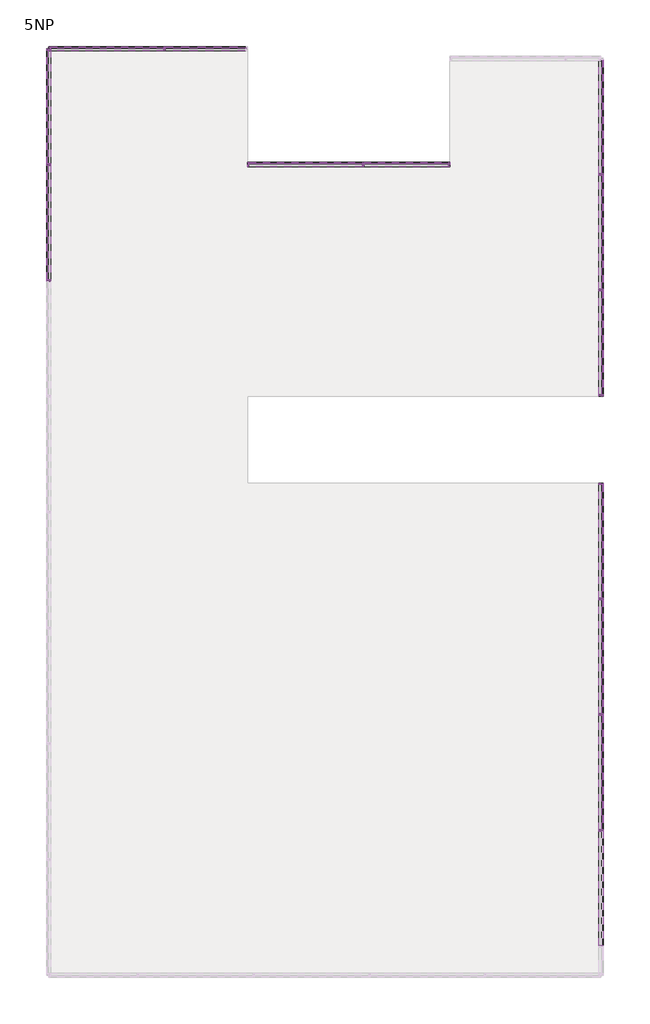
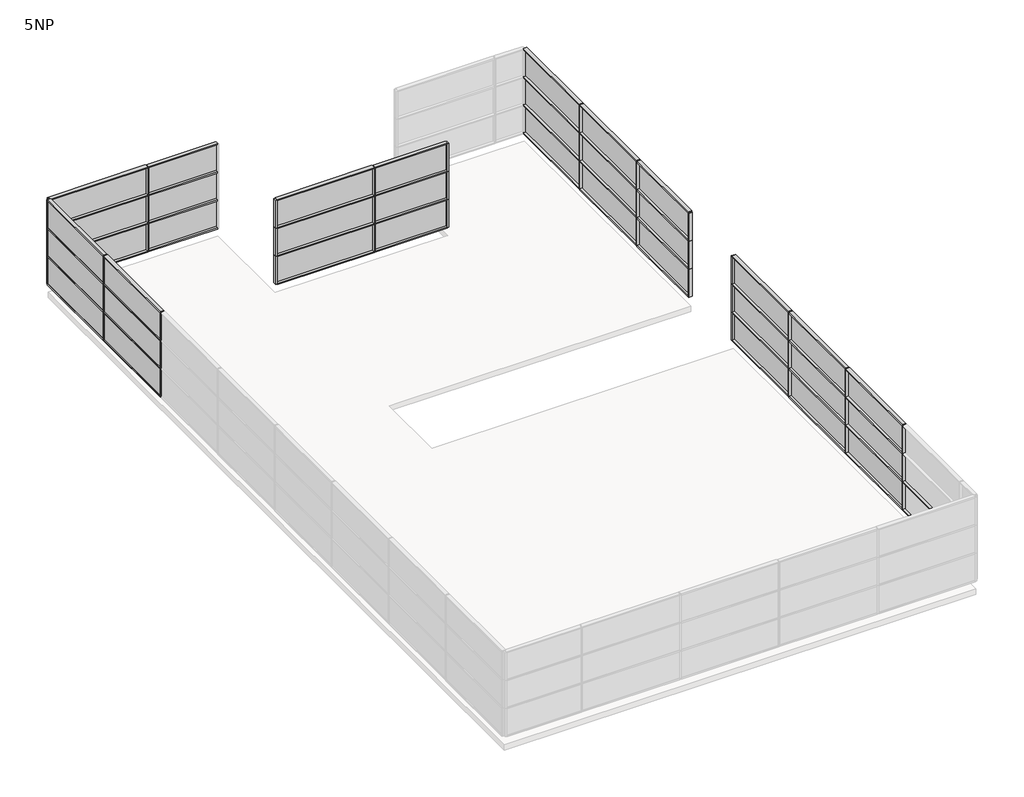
# One storey, part 2 of 3: 95 members, 36 plates.
"""IFC4 building model written with IfcOpenShell, lengths in millimetres."""

from ifc_helpers import new_model, si_unit, origin, place, context, project, spatial, transform, mapped, element, save
from components import rectangular_mullion_50_x_150mm_d99dc9be, rectangular_mullion_50_x_150mm_6588f46c, rectangular_mullion_50_x_150mm_3fe1b35e, rectangular_mullion_50_x_150mm_a037c29c, rectangular_mullion_50_x_150mm_c2546fd4, rectangular_mullion_50_x_150mm_8b4cb4b7, rectangular_mullion_50_x_150mm_185cfd49, system_panel_glazed_8e9402eb, system_panel_glazed_89ac83a7, system_panel_glazed_5566c609, system_panel_glazed_e890f31e, system_panel_glazed_e3e91f99

model = new_model("IFC4")

# Units and contexts
model_context = context("Model", 3, world=origin())
ifc_project = project(units=[si_unit("LENGTHUNIT", "METRE", prefix="MILLI")], contexts=[model_context])

# Site, building, storey
site = spatial("IfcSite", under=ifc_project)
building = spatial("IfcBuilding", under=site)
storey = spatial("IfcBuildingStorey", under=building, Name="5NP", Elevation=20000.0)

# Members
placement = place(None, origin())
rectangular_mullion_50_x_150mm_shape = rectangular_mullion_50_x_150mm_d99dc9be(model_context)
element("IfcMember", 1, ObjectType="Rectangular Mullion : 50 x 150mm", at=placement, inside=storey, context=model_context, shape_type="MappedRepresentation", body=[
    mapped(rectangular_mullion_50_x_150mm_shape, transform((13503.2660975, 39.3555415, 24000.0), x_axis=(0.0, -1.0, 0.0), y_axis=(1.0, 0.0, 0.0), z_axis=(0.0, 0.0, 1.0))),
])
element("IfcMember", 2, ObjectType="Rectangular Mullion : 50 x 150mm", at=placement, inside=storey, context=model_context, shape_type="MappedRepresentation", body=[
    mapped(rectangular_mullion_50_x_150mm_shape, transform((13503.2660975, 39.3555415, 22800.0), x_axis=(0.0, -1.0, 0.0), y_axis=(1.0, 0.0, 0.0), z_axis=(0.0, 0.0, 1.0))),
])
element("IfcMember", 3, ObjectType="Rectangular Mullion : 50 x 150mm", at=placement, inside=storey, context=model_context, shape_type="MappedRepresentation", body=[
    mapped(rectangular_mullion_50_x_150mm_shape, transform((13503.2660975, 39.3555415, 21600.0), x_axis=(0.0, -1.0, 0.0), y_axis=(1.0, 0.0, 0.0), z_axis=(0.0, 0.0, 1.0))),
])
element("IfcMember", 4, ObjectType="Rectangular Mullion : 50 x 150mm", at=placement, inside=storey, context=model_context, shape_type="MappedRepresentation", body=[
    mapped(rectangular_mullion_50_x_150mm_shape, transform((13503.2660975, 4039.3555415, 24000.0), x_axis=(0.0, -1.0, 0.0), y_axis=(1.0, 0.0, 0.0), z_axis=(0.0, 0.0, 1.0))),
])
element("IfcMember", 5, ObjectType="Rectangular Mullion : 50 x 150mm", at=placement, inside=storey, context=model_context, shape_type="MappedRepresentation", body=[
    mapped(rectangular_mullion_50_x_150mm_shape, transform((13503.2660975, 4039.3555415, 22800.0), x_axis=(0.0, -1.0, 0.0), y_axis=(1.0, 0.0, 0.0), z_axis=(0.0, 0.0, 1.0))),
])
element("IfcMember", 6, ObjectType="Rectangular Mullion : 50 x 150mm", at=placement, inside=storey, context=model_context, shape_type="MappedRepresentation", body=[
    mapped(rectangular_mullion_50_x_150mm_shape, transform((13503.2660975, 4039.3555415, 21600.0), x_axis=(0.0, -1.0, 0.0), y_axis=(1.0, 0.0, 0.0), z_axis=(0.0, 0.0, 1.0))),
])
element("IfcMember", 7, ObjectType="Rectangular Mullion : 50 x 150mm", at=placement, inside=storey, context=model_context, shape_type="MappedRepresentation", body=[
    mapped(rectangular_mullion_50_x_150mm_shape, transform((13503.2660975, -10624.0160434, 21600.0), x_axis=(0.0, -1.0, 0.0), y_axis=(1.0, 0.0, 0.0), z_axis=(0.0, 0.0, 1.0))),
])
element("IfcMember", 8, ObjectType="Rectangular Mullion : 50 x 150mm", at=placement, inside=storey, context=model_context, shape_type="MappedRepresentation", body=[
    mapped(rectangular_mullion_50_x_150mm_shape, transform((13503.2660975, -10624.0160434, 22800.0), x_axis=(0.0, -1.0, 0.0), y_axis=(1.0, 0.0, 0.0), z_axis=(0.0, 0.0, 1.0))),
])
element("IfcMember", 9, ObjectType="Rectangular Mullion : 50 x 150mm", at=placement, inside=storey, context=model_context, shape_type="MappedRepresentation", body=[
    mapped(rectangular_mullion_50_x_150mm_shape, transform((13503.2660975, -10624.0160434, 24000.0), x_axis=(0.0, -1.0, 0.0), y_axis=(1.0, 0.0, 0.0), z_axis=(0.0, 0.0, 1.0))),
])
element("IfcMember", 10, ObjectType="Rectangular Mullion : 50 x 150mm", at=placement, inside=storey, context=model_context, shape_type="MappedRepresentation", body=[
    mapped(rectangular_mullion_50_x_150mm_shape, transform((13503.2660975, -14624.0160434, 21600.0), x_axis=(0.0, -1.0, 0.0), y_axis=(1.0, 0.0, 0.0), z_axis=(0.0, 0.0, 1.0))),
])
element("IfcMember", 11, ObjectType="Rectangular Mullion : 50 x 150mm", at=placement, inside=storey, context=model_context, shape_type="MappedRepresentation", body=[
    mapped(rectangular_mullion_50_x_150mm_shape, transform((13503.2660975, -14624.0160434, 22800.0), x_axis=(0.0, -1.0, 0.0), y_axis=(1.0, 0.0, 0.0), z_axis=(0.0, 0.0, 1.0))),
])
element("IfcMember", 12, ObjectType="Rectangular Mullion : 50 x 150mm", at=placement, inside=storey, context=model_context, shape_type="MappedRepresentation", body=[
    mapped(rectangular_mullion_50_x_150mm_shape, transform((13503.2660975, -14624.0160434, 24000.0), x_axis=(0.0, -1.0, 0.0), y_axis=(1.0, 0.0, 0.0), z_axis=(0.0, 0.0, 1.0))),
])
element("IfcMember", 13, ObjectType="Rectangular Mullion : 50 x 150mm", at=placement, inside=storey, context=model_context, shape_type="MappedRepresentation", body=[
    mapped(rectangular_mullion_50_x_150mm_shape, transform((13503.2660975, -18624.0160434, 21600.0), x_axis=(0.0, -1.0, 0.0), y_axis=(1.0, 0.0, 0.0), z_axis=(0.0, 0.0, 1.0))),
])
element("IfcMember", 14, ObjectType="Rectangular Mullion : 50 x 150mm", at=placement, inside=storey, context=model_context, shape_type="MappedRepresentation", body=[
    mapped(rectangular_mullion_50_x_150mm_shape, transform((13503.2660975, -18624.0160434, 22800.0), x_axis=(0.0, -1.0, 0.0), y_axis=(1.0, 0.0, 0.0), z_axis=(0.0, 0.0, 1.0))),
])
element("IfcMember", 15, ObjectType="Rectangular Mullion : 50 x 150mm", at=placement, inside=storey, context=model_context, shape_type="MappedRepresentation", body=[
    mapped(rectangular_mullion_50_x_150mm_shape, transform((13503.2660975, -18624.0160434, 24000.0), x_axis=(0.0, -1.0, 0.0), y_axis=(1.0, 0.0, 0.0), z_axis=(0.0, 0.0, 1.0))),
])
element("IfcMember", 16, ObjectType="Rectangular Mullion : 50 x 150mm", at=placement, inside=storey, context=model_context, shape_type="MappedRepresentation", body=[
    mapped(rectangular_mullion_50_x_150mm_shape, transform((-5587.173406, 375.9839566, 21600.0), x_axis=(0.0, 1.0, 0.0), y_axis=(-1.0, 0.0, 0.0), z_axis=(0.0, 0.0, 1.0))),
])
element("IfcMember", 17, ObjectType="Rectangular Mullion : 50 x 150mm", at=placement, inside=storey, context=model_context, shape_type="MappedRepresentation", body=[
    mapped(rectangular_mullion_50_x_150mm_shape, transform((-5587.173406, 375.9839566, 22800.0), x_axis=(0.0, 1.0, 0.0), y_axis=(-1.0, 0.0, 0.0), z_axis=(0.0, 0.0, 1.0))),
])
element("IfcMember", 18, ObjectType="Rectangular Mullion : 50 x 150mm", at=placement, inside=storey, context=model_context, shape_type="MappedRepresentation", body=[
    mapped(rectangular_mullion_50_x_150mm_shape, transform((-5587.173406, 375.9839566, 24000.0), x_axis=(0.0, 1.0, 0.0), y_axis=(-1.0, 0.0, 0.0), z_axis=(0.0, 0.0, 1.0))),
])
element("IfcMember", 19, ObjectType="Rectangular Mullion : 50 x 150mm", at=placement, inside=storey, context=model_context, shape_type="MappedRepresentation", body=[
    mapped(rectangular_mullion_50_x_150mm_shape, transform((-5587.173406, 4375.9839566, 21600.0), x_axis=(0.0, 1.0, 0.0), y_axis=(-1.0, 0.0, 0.0), z_axis=(0.0, 0.0, 1.0))),
])
element("IfcMember", 20, ObjectType="Rectangular Mullion : 50 x 150mm", at=placement, inside=storey, context=model_context, shape_type="MappedRepresentation", body=[
    mapped(rectangular_mullion_50_x_150mm_shape, transform((-5587.173406, 4375.9839566, 22800.0), x_axis=(0.0, 1.0, 0.0), y_axis=(-1.0, 0.0, 0.0), z_axis=(0.0, 0.0, 1.0))),
])
element("IfcMember", 21, ObjectType="Rectangular Mullion : 50 x 150mm", at=placement, inside=storey, context=model_context, shape_type="MappedRepresentation", body=[
    mapped(rectangular_mullion_50_x_150mm_shape, transform((-5587.173406, 4375.9839566, 24000.0), x_axis=(0.0, 1.0, 0.0), y_axis=(-1.0, 0.0, 0.0), z_axis=(0.0, 0.0, 1.0))),
])
element("IfcMember", 22, ObjectType="Rectangular Mullion : 50 x 150mm", at=placement, inside=storey, context=model_context, shape_type="MappedRepresentation", body=[
    mapped(rectangular_mullion_50_x_150mm_shape, transform((-1587.173406, 8375.9839566, 21600.0), x_axis=(1.0, 0.0, 0.0), y_axis=(0.0, 1.0, 0.0), z_axis=(0.0, 0.0, 1.0))),
])
element("IfcMember", 23, ObjectType="Rectangular Mullion : 50 x 150mm", at=placement, inside=storey, context=model_context, shape_type="MappedRepresentation", body=[
    mapped(rectangular_mullion_50_x_150mm_shape, transform((-1587.173406, 8375.9839566, 22800.0), x_axis=(1.0, 0.0, 0.0), y_axis=(0.0, 1.0, 0.0), z_axis=(0.0, 0.0, 1.0))),
])
element("IfcMember", 24, ObjectType="Rectangular Mullion : 50 x 150mm", at=placement, inside=storey, context=model_context, shape_type="MappedRepresentation", body=[
    mapped(rectangular_mullion_50_x_150mm_shape, transform((-1587.173406, 8375.9839566, 24000.0), x_axis=(1.0, 0.0, 0.0), y_axis=(0.0, 1.0, 0.0), z_axis=(0.0, 0.0, 1.0))),
])
element("IfcMember", 25, ObjectType="Rectangular Mullion : 50 x 150mm", at=placement, inside=storey, context=model_context, shape_type="MappedRepresentation", body=[
    mapped(rectangular_mullion_50_x_150mm_shape, transform((5278.419219, 4375.9839566, 21600.0), x_axis=(1.0, 0.0, 0.0), y_axis=(0.0, 1.0, 0.0), z_axis=(0.0, 0.0, 1.0))),
])
element("IfcMember", 26, ObjectType="Rectangular Mullion : 50 x 150mm", at=placement, inside=storey, context=model_context, shape_type="MappedRepresentation", body=[
    mapped(rectangular_mullion_50_x_150mm_shape, transform((5278.419219, 4375.9839566, 22800.0), x_axis=(1.0, 0.0, 0.0), y_axis=(0.0, 1.0, 0.0), z_axis=(0.0, 0.0, 1.0))),
])
element("IfcMember", 27, ObjectType="Rectangular Mullion : 50 x 150mm", at=placement, inside=storey, context=model_context, shape_type="MappedRepresentation", body=[
    mapped(rectangular_mullion_50_x_150mm_shape, transform((5278.419219, 4375.9839566, 24000.0), x_axis=(1.0, 0.0, 0.0), y_axis=(0.0, 1.0, 0.0), z_axis=(0.0, 0.0, 1.0))),
])
rectangular_mullion_50_x_150mm_2_shape = rectangular_mullion_50_x_150mm_6588f46c(model_context)
element("IfcMember", 28, ObjectType="Rectangular Mullion : 50 x 150mm", at=placement, inside=storey, context=model_context, shape_type="MappedRepresentation", body=[
    mapped(rectangular_mullion_50_x_150mm_2_shape, transform((13503.2660975, -3624.0160434, 24000.0), x_axis=(0.0, -1.0, 0.0), y_axis=(1.0, 0.0, 0.0), z_axis=(0.0, 0.0, 1.0))),
])
element("IfcMember", 29, ObjectType="Rectangular Mullion : 50 x 150mm", at=placement, inside=storey, context=model_context, shape_type="MappedRepresentation", body=[
    mapped(rectangular_mullion_50_x_150mm_2_shape, transform((13503.2660975, -3624.0160434, 22800.0), x_axis=(0.0, -1.0, 0.0), y_axis=(1.0, 0.0, 0.0), z_axis=(0.0, 0.0, 1.0))),
])
element("IfcMember", 30, ObjectType="Rectangular Mullion : 50 x 150mm", at=placement, inside=storey, context=model_context, shape_type="MappedRepresentation", body=[
    mapped(rectangular_mullion_50_x_150mm_2_shape, transform((13503.2660975, -3624.0160434, 21600.0), x_axis=(0.0, -1.0, 0.0), y_axis=(1.0, 0.0, 0.0), z_axis=(0.0, 0.0, 1.0))),
])
element("IfcMember", 31, ObjectType="Rectangular Mullion : 50 x 150mm", at=placement, inside=storey, context=model_context, shape_type="MappedRepresentation", body=[
    mapped(rectangular_mullion_50_x_150mm_2_shape, transform((-5587.173406, 8375.9839566, 21600.0), x_axis=(0.0, 1.0, 0.0), y_axis=(-1.0, 0.0, 0.0), z_axis=(0.0, 0.0, 1.0))),
])
element("IfcMember", 32, ObjectType="Rectangular Mullion : 50 x 150mm", at=placement, inside=storey, context=model_context, shape_type="MappedRepresentation", body=[
    mapped(rectangular_mullion_50_x_150mm_2_shape, transform((-5587.173406, 8375.9839566, 22800.0), x_axis=(0.0, 1.0, 0.0), y_axis=(-1.0, 0.0, 0.0), z_axis=(0.0, 0.0, 1.0))),
])
element("IfcMember", 33, ObjectType="Rectangular Mullion : 50 x 150mm", at=placement, inside=storey, context=model_context, shape_type="MappedRepresentation", body=[
    mapped(rectangular_mullion_50_x_150mm_2_shape, transform((-5587.173406, 8375.9839566, 24000.0), x_axis=(0.0, 1.0, 0.0), y_axis=(-1.0, 0.0, 0.0), z_axis=(0.0, 0.0, 1.0))),
])
element("IfcMember", 34, ObjectType="Rectangular Mullion : 50 x 150mm", at=placement, inside=storey, context=model_context, shape_type="MappedRepresentation", body=[
    mapped(rectangular_mullion_50_x_150mm_2_shape, transform((8278.419219, 4375.9839566, 21600.0), x_axis=(1.0, 0.0, 0.0), y_axis=(0.0, 1.0, 0.0), z_axis=(0.0, 0.0, 1.0))),
])
element("IfcMember", 35, ObjectType="Rectangular Mullion : 50 x 150mm", at=placement, inside=storey, context=model_context, shape_type="MappedRepresentation", body=[
    mapped(rectangular_mullion_50_x_150mm_2_shape, transform((8278.419219, 4375.9839566, 22800.0), x_axis=(1.0, 0.0, 0.0), y_axis=(0.0, 1.0, 0.0), z_axis=(0.0, 0.0, 1.0))),
])
element("IfcMember", 36, ObjectType="Rectangular Mullion : 50 x 150mm", at=placement, inside=storey, context=model_context, shape_type="MappedRepresentation", body=[
    mapped(rectangular_mullion_50_x_150mm_2_shape, transform((8278.419219, 4375.9839566, 24000.0), x_axis=(1.0, 0.0, 0.0), y_axis=(0.0, 1.0, 0.0), z_axis=(0.0, 0.0, 1.0))),
])
rectangular_mullion_50_x_150mm_3_shape = rectangular_mullion_50_x_150mm_3fe1b35e(model_context)
element("IfcMember", 37, ObjectType="Rectangular Mullion : 50 x 150mm", at=placement, inside=storey, context=model_context, shape_type="MappedRepresentation", body=[
    mapped(rectangular_mullion_50_x_150mm_3_shape, transform((13503.2660975, 14.3555415, 24000.0), x_axis=(0.0, 0.0, 1.0), y_axis=(1.0, 0.0, 0.0), z_axis=(0.0, 1.0, 0.0))),
])
element("IfcMember", 38, ObjectType="Rectangular Mullion : 50 x 150mm", at=placement, inside=storey, context=model_context, shape_type="MappedRepresentation", body=[
    mapped(rectangular_mullion_50_x_150mm_3_shape, transform((13503.2660975, 14.3555415, 22800.0), x_axis=(0.0, 0.0, 1.0), y_axis=(1.0, 0.0, 0.0), z_axis=(0.0, 1.0, 0.0))),
])
element("IfcMember", 39, ObjectType="Rectangular Mullion : 50 x 150mm", at=placement, inside=storey, context=model_context, shape_type="MappedRepresentation", body=[
    mapped(rectangular_mullion_50_x_150mm_3_shape, transform((13503.2660975, 14.3555415, 21600.0), x_axis=(0.0, 0.0, 1.0), y_axis=(1.0, 0.0, 0.0), z_axis=(0.0, 1.0, 0.0))),
])
element("IfcMember", 40, ObjectType="Rectangular Mullion : 50 x 150mm", at=placement, inside=storey, context=model_context, shape_type="MappedRepresentation", body=[
    mapped(rectangular_mullion_50_x_150mm_3_shape, transform((13503.2660975, 14.3555415, 20400.0), x_axis=(0.0, 0.0, 1.0), y_axis=(1.0, 0.0, 0.0), z_axis=(0.0, 1.0, 0.0))),
])
rectangular_mullion_50_x_150mm_4_shape = rectangular_mullion_50_x_150mm_a037c29c(model_context)
element("IfcMember", 41, ObjectType="Rectangular Mullion : 50 x 150mm", at=placement, inside=storey, context=model_context, shape_type="MappedRepresentation", body=[
    mapped(rectangular_mullion_50_x_150mm_4_shape, transform((13503.2660975, 4014.3555415, 24000.0), x_axis=(0.0, 0.0, 1.0), y_axis=(1.0, 0.0, 0.0), z_axis=(0.0, 1.0, 0.0))),
])
element("IfcMember", 42, ObjectType="Rectangular Mullion : 50 x 150mm", at=placement, inside=storey, context=model_context, shape_type="MappedRepresentation", body=[
    mapped(rectangular_mullion_50_x_150mm_4_shape, transform((13503.2660975, 4014.3555415, 22800.0), x_axis=(0.0, 0.0, 1.0), y_axis=(1.0, 0.0, 0.0), z_axis=(0.0, 1.0, 0.0))),
])
element("IfcMember", 43, ObjectType="Rectangular Mullion : 50 x 150mm", at=placement, inside=storey, context=model_context, shape_type="MappedRepresentation", body=[
    mapped(rectangular_mullion_50_x_150mm_4_shape, transform((13503.2660975, 4014.3555415, 21600.0), x_axis=(0.0, 0.0, 1.0), y_axis=(1.0, 0.0, 0.0), z_axis=(0.0, 1.0, 0.0))),
])
element("IfcMember", 44, ObjectType="Rectangular Mullion : 50 x 150mm", at=placement, inside=storey, context=model_context, shape_type="MappedRepresentation", body=[
    mapped(rectangular_mullion_50_x_150mm_4_shape, transform((13503.2660975, 4014.3555415, 20400.0), x_axis=(0.0, 0.0, 1.0), y_axis=(1.0, 0.0, 0.0), z_axis=(0.0, 1.0, 0.0))),
])
element("IfcMember", 45, ObjectType="Rectangular Mullion : 50 x 150mm", at=placement, inside=storey, context=model_context, shape_type="MappedRepresentation", body=[
    mapped(rectangular_mullion_50_x_150mm_4_shape, transform((13503.2660975, -10649.0160434, 24000.0), x_axis=(0.0, 0.0, 1.0), y_axis=(1.0, 0.0, 0.0), z_axis=(0.0, 1.0, 0.0))),
])
element("IfcMember", 46, ObjectType="Rectangular Mullion : 50 x 150mm", at=placement, inside=storey, context=model_context, shape_type="MappedRepresentation", body=[
    mapped(rectangular_mullion_50_x_150mm_4_shape, transform((13503.2660975, -14649.0160434, 24000.0), x_axis=(0.0, 0.0, 1.0), y_axis=(1.0, 0.0, 0.0), z_axis=(0.0, 1.0, 0.0))),
])
element("IfcMember", 47, ObjectType="Rectangular Mullion : 50 x 150mm", at=placement, inside=storey, context=model_context, shape_type="MappedRepresentation", body=[
    mapped(rectangular_mullion_50_x_150mm_4_shape, transform((13503.2660975, -10649.0160434, 20400.0), x_axis=(0.0, 0.0, 1.0), y_axis=(1.0, 0.0, 0.0), z_axis=(0.0, 1.0, 0.0))),
])
element("IfcMember", 48, ObjectType="Rectangular Mullion : 50 x 150mm", at=placement, inside=storey, context=model_context, shape_type="MappedRepresentation", body=[
    mapped(rectangular_mullion_50_x_150mm_4_shape, transform((13503.2660975, -14649.0160434, 20400.0), x_axis=(0.0, 0.0, 1.0), y_axis=(1.0, 0.0, 0.0), z_axis=(0.0, 1.0, 0.0))),
])
element("IfcMember", 49, ObjectType="Rectangular Mullion : 50 x 150mm", at=placement, inside=storey, context=model_context, shape_type="MappedRepresentation", body=[
    mapped(rectangular_mullion_50_x_150mm_4_shape, transform((13503.2660975, -18649.0160434, 20400.0), x_axis=(0.0, 0.0, 1.0), y_axis=(1.0, 0.0, 0.0), z_axis=(0.0, 1.0, 0.0))),
])
element("IfcMember", 50, ObjectType="Rectangular Mullion : 50 x 150mm", at=placement, inside=storey, context=model_context, shape_type="MappedRepresentation", body=[
    mapped(rectangular_mullion_50_x_150mm_4_shape, transform((13503.2660975, -10649.0160434, 21600.0), x_axis=(0.0, 0.0, 1.0), y_axis=(1.0, 0.0, 0.0), z_axis=(0.0, 1.0, 0.0))),
])
element("IfcMember", 51, ObjectType="Rectangular Mullion : 50 x 150mm", at=placement, inside=storey, context=model_context, shape_type="MappedRepresentation", body=[
    mapped(rectangular_mullion_50_x_150mm_4_shape, transform((13503.2660975, -14649.0160434, 21600.0), x_axis=(0.0, 0.0, 1.0), y_axis=(1.0, 0.0, 0.0), z_axis=(0.0, 1.0, 0.0))),
])
element("IfcMember", 52, ObjectType="Rectangular Mullion : 50 x 150mm", at=placement, inside=storey, context=model_context, shape_type="MappedRepresentation", body=[
    mapped(rectangular_mullion_50_x_150mm_4_shape, transform((13503.2660975, -18649.0160434, 21600.0), x_axis=(0.0, 0.0, 1.0), y_axis=(1.0, 0.0, 0.0), z_axis=(0.0, 1.0, 0.0))),
])
element("IfcMember", 53, ObjectType="Rectangular Mullion : 50 x 150mm", at=placement, inside=storey, context=model_context, shape_type="MappedRepresentation", body=[
    mapped(rectangular_mullion_50_x_150mm_4_shape, transform((13503.2660975, -10649.0160434, 22800.0), x_axis=(0.0, 0.0, 1.0), y_axis=(1.0, 0.0, 0.0), z_axis=(0.0, 1.0, 0.0))),
])
element("IfcMember", 54, ObjectType="Rectangular Mullion : 50 x 150mm", at=placement, inside=storey, context=model_context, shape_type="MappedRepresentation", body=[
    mapped(rectangular_mullion_50_x_150mm_4_shape, transform((13503.2660975, -14649.0160434, 22800.0), x_axis=(0.0, 0.0, 1.0), y_axis=(1.0, 0.0, 0.0), z_axis=(0.0, 1.0, 0.0))),
])
element("IfcMember", 55, ObjectType="Rectangular Mullion : 50 x 150mm", at=placement, inside=storey, context=model_context, shape_type="MappedRepresentation", body=[
    mapped(rectangular_mullion_50_x_150mm_4_shape, transform((-5587.173406, 400.9839566, 20400.0), x_axis=(0.0, 0.0, 1.0), y_axis=(-1.0, 0.0, 0.0), z_axis=(0.0, -1.0, 0.0))),
])
element("IfcMember", 56, ObjectType="Rectangular Mullion : 50 x 150mm", at=placement, inside=storey, context=model_context, shape_type="MappedRepresentation", body=[
    mapped(rectangular_mullion_50_x_150mm_4_shape, transform((-5587.173406, 400.9839566, 21600.0), x_axis=(0.0, 0.0, 1.0), y_axis=(-1.0, 0.0, 0.0), z_axis=(0.0, -1.0, 0.0))),
])
element("IfcMember", 57, ObjectType="Rectangular Mullion : 50 x 150mm", at=placement, inside=storey, context=model_context, shape_type="MappedRepresentation", body=[
    mapped(rectangular_mullion_50_x_150mm_4_shape, transform((-5587.173406, 400.9839566, 22800.0), x_axis=(0.0, 0.0, 1.0), y_axis=(-1.0, 0.0, 0.0), z_axis=(0.0, -1.0, 0.0))),
])
element("IfcMember", 58, ObjectType="Rectangular Mullion : 50 x 150mm", at=placement, inside=storey, context=model_context, shape_type="MappedRepresentation", body=[
    mapped(rectangular_mullion_50_x_150mm_4_shape, transform((-5587.173406, 400.9839566, 24000.0), x_axis=(0.0, 0.0, 1.0), y_axis=(-1.0, 0.0, 0.0), z_axis=(0.0, -1.0, 0.0))),
])
rectangular_mullion_50_x_150mm_5_shape = rectangular_mullion_50_x_150mm_c2546fd4(model_context)
element("IfcMember", 59, ObjectType="Rectangular Mullion : 50 x 150mm", at=placement, inside=storey, context=model_context, shape_type="MappedRepresentation", body=[
    mapped(rectangular_mullion_50_x_150mm_5_shape, transform((13503.2660975, 7989.3555415, 24000.0), x_axis=(0.0, 0.0, 1.0), y_axis=(1.0, 0.0, 0.0), z_axis=(0.0, 1.0, 0.0))),
])
element("IfcMember", 60, ObjectType="Rectangular Mullion : 50 x 150mm", at=placement, inside=storey, context=model_context, shape_type="MappedRepresentation", body=[
    mapped(rectangular_mullion_50_x_150mm_5_shape, transform((13503.2660975, 7989.3555415, 22800.0), x_axis=(0.0, 0.0, 1.0), y_axis=(1.0, 0.0, 0.0), z_axis=(0.0, 1.0, 0.0))),
])
element("IfcMember", 61, ObjectType="Rectangular Mullion : 50 x 150mm", at=placement, inside=storey, context=model_context, shape_type="MappedRepresentation", body=[
    mapped(rectangular_mullion_50_x_150mm_5_shape, transform((13503.2660975, 7989.3555415, 21600.0), x_axis=(0.0, 0.0, 1.0), y_axis=(1.0, 0.0, 0.0), z_axis=(0.0, 1.0, 0.0))),
])
element("IfcMember", 62, ObjectType="Rectangular Mullion : 50 x 150mm", at=placement, inside=storey, context=model_context, shape_type="MappedRepresentation", body=[
    mapped(rectangular_mullion_50_x_150mm_5_shape, transform((13503.2660975, 7989.3555415, 20400.0), x_axis=(0.0, 0.0, 1.0), y_axis=(1.0, 0.0, 0.0), z_axis=(0.0, 1.0, 0.0))),
])
element("IfcMember", 63, ObjectType="Rectangular Mullion : 50 x 150mm", at=placement, inside=storey, context=model_context, shape_type="MappedRepresentation", body=[
    mapped(rectangular_mullion_50_x_150mm_5_shape, transform((13503.2660975, -6674.0160434, 24000.0), x_axis=(0.0, 0.0, 1.0), y_axis=(1.0, 0.0, 0.0), z_axis=(0.0, 1.0, 0.0))),
])
element("IfcMember", 64, ObjectType="Rectangular Mullion : 50 x 150mm", at=placement, inside=storey, context=model_context, shape_type="MappedRepresentation", body=[
    mapped(rectangular_mullion_50_x_150mm_5_shape, transform((13503.2660975, -6674.0160434, 20400.0), x_axis=(0.0, 0.0, 1.0), y_axis=(1.0, 0.0, 0.0), z_axis=(0.0, 1.0, 0.0))),
])
element("IfcMember", 65, ObjectType="Rectangular Mullion : 50 x 150mm", at=placement, inside=storey, context=model_context, shape_type="MappedRepresentation", body=[
    mapped(rectangular_mullion_50_x_150mm_5_shape, transform((13503.2660975, -6674.0160434, 21600.0), x_axis=(0.0, 0.0, 1.0), y_axis=(1.0, 0.0, 0.0), z_axis=(0.0, 1.0, 0.0))),
])
element("IfcMember", 66, ObjectType="Rectangular Mullion : 50 x 150mm", at=placement, inside=storey, context=model_context, shape_type="MappedRepresentation", body=[
    mapped(rectangular_mullion_50_x_150mm_5_shape, transform((13503.2660975, -6674.0160434, 22800.0), x_axis=(0.0, 0.0, 1.0), y_axis=(1.0, 0.0, 0.0), z_axis=(0.0, 1.0, 0.0))),
])
element("IfcMember", 67, ObjectType="Rectangular Mullion : 50 x 150mm", at=placement, inside=storey, context=model_context, shape_type="MappedRepresentation", body=[
    mapped(rectangular_mullion_50_x_150mm_5_shape, transform((-5587.173406, 4400.9839566, 20400.0), x_axis=(0.0, 0.0, 1.0), y_axis=(-1.0, 0.0, 0.0), z_axis=(0.0, -1.0, 0.0))),
])
element("IfcMember", 68, ObjectType="Rectangular Mullion : 50 x 150mm", at=placement, inside=storey, context=model_context, shape_type="MappedRepresentation", body=[
    mapped(rectangular_mullion_50_x_150mm_5_shape, transform((-5587.173406, 4400.9839566, 21600.0), x_axis=(0.0, 0.0, 1.0), y_axis=(-1.0, 0.0, 0.0), z_axis=(0.0, -1.0, 0.0))),
])
element("IfcMember", 69, ObjectType="Rectangular Mullion : 50 x 150mm", at=placement, inside=storey, context=model_context, shape_type="MappedRepresentation", body=[
    mapped(rectangular_mullion_50_x_150mm_5_shape, transform((-5587.173406, 4400.9839566, 22800.0), x_axis=(0.0, 0.0, 1.0), y_axis=(-1.0, 0.0, 0.0), z_axis=(0.0, -1.0, 0.0))),
])
element("IfcMember", 70, ObjectType="Rectangular Mullion : 50 x 150mm", at=placement, inside=storey, context=model_context, shape_type="MappedRepresentation", body=[
    mapped(rectangular_mullion_50_x_150mm_5_shape, transform((-5587.173406, 4400.9839566, 24000.0), x_axis=(0.0, 0.0, 1.0), y_axis=(-1.0, 0.0, 0.0), z_axis=(0.0, -1.0, 0.0))),
])
element("IfcMember", 71, ObjectType="Rectangular Mullion : 50 x 150mm", at=placement, inside=storey, context=model_context, shape_type="MappedRepresentation", body=[
    mapped(rectangular_mullion_50_x_150mm_5_shape, transform((-5537.173406, 8375.9839566, 20400.0), x_axis=(0.0, 0.0, 1.0), y_axis=(0.0, 1.0, 0.0), z_axis=(-1.0, 0.0, 0.0))),
])
element("IfcMember", 72, ObjectType="Rectangular Mullion : 50 x 150mm", at=placement, inside=storey, context=model_context, shape_type="MappedRepresentation", body=[
    mapped(rectangular_mullion_50_x_150mm_5_shape, transform((-5537.173406, 8375.9839566, 21600.0), x_axis=(0.0, 0.0, 1.0), y_axis=(0.0, 1.0, 0.0), z_axis=(-1.0, 0.0, 0.0))),
])
element("IfcMember", 73, ObjectType="Rectangular Mullion : 50 x 150mm", at=placement, inside=storey, context=model_context, shape_type="MappedRepresentation", body=[
    mapped(rectangular_mullion_50_x_150mm_5_shape, transform((-5537.173406, 8375.9839566, 22800.0), x_axis=(0.0, 0.0, 1.0), y_axis=(0.0, 1.0, 0.0), z_axis=(-1.0, 0.0, 0.0))),
])
element("IfcMember", 74, ObjectType="Rectangular Mullion : 50 x 150mm", at=placement, inside=storey, context=model_context, shape_type="MappedRepresentation", body=[
    mapped(rectangular_mullion_50_x_150mm_5_shape, transform((-5537.173406, 8375.9839566, 24000.0), x_axis=(0.0, 0.0, 1.0), y_axis=(0.0, 1.0, 0.0), z_axis=(-1.0, 0.0, 0.0))),
])
element("IfcMember", 75, ObjectType="Rectangular Mullion : 50 x 150mm", at=placement, inside=storey, context=model_context, shape_type="MappedRepresentation", body=[
    mapped(rectangular_mullion_50_x_150mm_5_shape, transform((1328.419219, 4375.9839566, 24000.0), x_axis=(0.0, 0.0, 1.0), y_axis=(0.0, 1.0, 0.0), z_axis=(-1.0, 0.0, 0.0))),
])
element("IfcMember", 76, ObjectType="Rectangular Mullion : 50 x 150mm", at=placement, inside=storey, context=model_context, shape_type="MappedRepresentation", body=[
    mapped(rectangular_mullion_50_x_150mm_5_shape, transform((1328.419219, 4375.9839566, 20400.0), x_axis=(0.0, 0.0, 1.0), y_axis=(0.0, 1.0, 0.0), z_axis=(-1.0, 0.0, 0.0))),
])
element("IfcMember", 77, ObjectType="Rectangular Mullion : 50 x 150mm", at=placement, inside=storey, context=model_context, shape_type="MappedRepresentation", body=[
    mapped(rectangular_mullion_50_x_150mm_5_shape, transform((1328.419219, 4375.9839566, 21600.0), x_axis=(0.0, 0.0, 1.0), y_axis=(0.0, 1.0, 0.0), z_axis=(-1.0, 0.0, 0.0))),
])
element("IfcMember", 78, ObjectType="Rectangular Mullion : 50 x 150mm", at=placement, inside=storey, context=model_context, shape_type="MappedRepresentation", body=[
    mapped(rectangular_mullion_50_x_150mm_5_shape, transform((1328.419219, 4375.9839566, 22800.0), x_axis=(0.0, 0.0, 1.0), y_axis=(0.0, 1.0, 0.0), z_axis=(-1.0, 0.0, 0.0))),
])
element("IfcMember", 79, ObjectType="Rectangular Mullion : 50 x 150mm", at=placement, inside=storey, context=model_context, shape_type="MappedRepresentation", body=[
    mapped(rectangular_mullion_50_x_150mm_2_shape, transform((13503.2660975, -6624.0160434, 20400.0), x_axis=(0.0, 1.0, 0.0), y_axis=(1.0, 0.0, 0.0), z_axis=(0.0, 0.0, -1.0))),
])
element("IfcMember", 80, ObjectType="Rectangular Mullion : 50 x 150mm", at=placement, inside=storey, context=model_context, shape_type="MappedRepresentation", body=[
    mapped(rectangular_mullion_50_x_150mm_2_shape, transform((13503.2660975, -6624.0160434, 21600.0), x_axis=(0.0, 1.0, 0.0), y_axis=(1.0, 0.0, 0.0), z_axis=(0.0, 0.0, -1.0))),
])
element("IfcMember", 81, ObjectType="Rectangular Mullion : 50 x 150mm", at=placement, inside=storey, context=model_context, shape_type="MappedRepresentation", body=[
    mapped(rectangular_mullion_50_x_150mm_2_shape, transform((13503.2660975, -6624.0160434, 22800.0), x_axis=(0.0, 1.0, 0.0), y_axis=(1.0, 0.0, 0.0), z_axis=(0.0, 0.0, -1.0))),
])
element("IfcMember", 82, ObjectType="Rectangular Mullion : 50 x 150mm", at=placement, inside=storey, context=model_context, shape_type="MappedRepresentation", body=[
    mapped(rectangular_mullion_50_x_150mm_2_shape, transform((-5587.173406, 8375.9839566, 20400.0), x_axis=(-1.0, 0.0, 0.0), y_axis=(0.0, 1.0, 0.0), z_axis=(0.0, 0.0, -1.0))),
])
element("IfcMember", 83, ObjectType="Rectangular Mullion : 50 x 150mm", at=placement, inside=storey, context=model_context, shape_type="MappedRepresentation", body=[
    mapped(rectangular_mullion_50_x_150mm_2_shape, transform((-5587.173406, 8375.9839566, 21600.0), x_axis=(-1.0, 0.0, 0.0), y_axis=(0.0, 1.0, 0.0), z_axis=(0.0, 0.0, -1.0))),
])
element("IfcMember", 84, ObjectType="Rectangular Mullion : 50 x 150mm", at=placement, inside=storey, context=model_context, shape_type="MappedRepresentation", body=[
    mapped(rectangular_mullion_50_x_150mm_2_shape, transform((-5587.173406, 8375.9839566, 22800.0), x_axis=(-1.0, 0.0, 0.0), y_axis=(0.0, 1.0, 0.0), z_axis=(0.0, 0.0, -1.0))),
])
element("IfcMember", 85, ObjectType="Rectangular Mullion : 50 x 150mm", at=placement, inside=storey, context=model_context, shape_type="MappedRepresentation", body=[
    mapped(rectangular_mullion_50_x_150mm_2_shape, transform((1278.419219, 4375.9839566, 20400.0), x_axis=(-1.0, 0.0, 0.0), y_axis=(0.0, 1.0, 0.0), z_axis=(0.0, 0.0, -1.0))),
])
element("IfcMember", 86, ObjectType="Rectangular Mullion : 50 x 150mm", at=placement, inside=storey, context=model_context, shape_type="MappedRepresentation", body=[
    mapped(rectangular_mullion_50_x_150mm_2_shape, transform((1278.419219, 4375.9839566, 21600.0), x_axis=(-1.0, 0.0, 0.0), y_axis=(0.0, 1.0, 0.0), z_axis=(0.0, 0.0, -1.0))),
])
element("IfcMember", 87, ObjectType="Rectangular Mullion : 50 x 150mm", at=placement, inside=storey, context=model_context, shape_type="MappedRepresentation", body=[
    mapped(rectangular_mullion_50_x_150mm_2_shape, transform((1278.419219, 4375.9839566, 22800.0), x_axis=(-1.0, 0.0, 0.0), y_axis=(0.0, 1.0, 0.0), z_axis=(0.0, 0.0, -1.0))),
])
rectangular_mullion_50_x_150mm_6_shape = rectangular_mullion_50_x_150mm_8b4cb4b7(model_context)
element("IfcMember", 88, ObjectType="Rectangular Mullion : 50 x 150mm", at=placement, inside=storey, context=model_context, shape_type="MappedRepresentation", body=[
    mapped(rectangular_mullion_50_x_150mm_6_shape, transform((-1562.173406, 8375.9839566, 20400.0), x_axis=(0.0, 0.0, 1.0), y_axis=(0.0, 1.0, 0.0), z_axis=(-1.0, 0.0, 0.0))),
])
element("IfcMember", 89, ObjectType="Rectangular Mullion : 50 x 150mm", at=placement, inside=storey, context=model_context, shape_type="MappedRepresentation", body=[
    mapped(rectangular_mullion_50_x_150mm_6_shape, transform((-1562.173406, 8375.9839566, 21600.0), x_axis=(0.0, 0.0, 1.0), y_axis=(0.0, 1.0, 0.0), z_axis=(-1.0, 0.0, 0.0))),
])
element("IfcMember", 90, ObjectType="Rectangular Mullion : 50 x 150mm", at=placement, inside=storey, context=model_context, shape_type="MappedRepresentation", body=[
    mapped(rectangular_mullion_50_x_150mm_6_shape, transform((-1562.173406, 8375.9839566, 22800.0), x_axis=(0.0, 0.0, 1.0), y_axis=(0.0, 1.0, 0.0), z_axis=(-1.0, 0.0, 0.0))),
])
element("IfcMember", 91, ObjectType="Rectangular Mullion : 50 x 150mm", at=placement, inside=storey, context=model_context, shape_type="MappedRepresentation", body=[
    mapped(rectangular_mullion_50_x_150mm_6_shape, transform((-1562.173406, 8375.9839566, 24000.0), x_axis=(0.0, 0.0, 1.0), y_axis=(0.0, 1.0, 0.0), z_axis=(-1.0, 0.0, 0.0))),
])
rectangular_mullion_50_x_150mm_7_shape = rectangular_mullion_50_x_150mm_185cfd49(model_context)
element("IfcMember", 92, ObjectType="Rectangular Mullion : 50 x 150mm", at=placement, inside=storey, context=model_context, shape_type="MappedRepresentation", body=[
    mapped(rectangular_mullion_50_x_150mm_7_shape, transform((5303.419219, 4375.9839566, 22800.0), x_axis=(0.0, 0.0, 1.0), y_axis=(0.0, 1.0, 0.0), z_axis=(-1.0, 0.0, 0.0))),
])
element("IfcMember", 93, ObjectType="Rectangular Mullion : 50 x 150mm", at=placement, inside=storey, context=model_context, shape_type="MappedRepresentation", body=[
    mapped(rectangular_mullion_50_x_150mm_7_shape, transform((5303.419219, 4375.9839566, 24000.0), x_axis=(0.0, 0.0, 1.0), y_axis=(0.0, 1.0, 0.0), z_axis=(-1.0, 0.0, 0.0))),
])
element("IfcMember", 94, ObjectType="Rectangular Mullion : 50 x 150mm", at=placement, inside=storey, context=model_context, shape_type="MappedRepresentation", body=[
    mapped(rectangular_mullion_50_x_150mm_7_shape, transform((5303.419219, 4375.9839566, 20400.0), x_axis=(0.0, 0.0, 1.0), y_axis=(0.0, 1.0, 0.0), z_axis=(-1.0, 0.0, 0.0))),
])
element("IfcMember", 95, ObjectType="Rectangular Mullion : 50 x 150mm", at=placement, inside=storey, context=model_context, shape_type="MappedRepresentation", body=[
    mapped(rectangular_mullion_50_x_150mm_7_shape, transform((5303.419219, 4375.9839566, 21600.0), x_axis=(0.0, 0.0, 1.0), y_axis=(0.0, 1.0, 0.0), z_axis=(-1.0, 0.0, 0.0))),
])

# Plates
system_panel_glazed_shape = system_panel_glazed_8e9402eb(model_context)
element("IfcPlate", 96, ObjectType="System Panel : Glazed", at=placement, inside=storey, context=model_context, shape_type="MappedRepresentation", body=[
    mapped(system_panel_glazed_shape, transform((-5587.173406, 6363.4839566, 20425.0), x_axis=(0.0, 1.0, 0.0), y_axis=(-1.0, 0.0, 0.0), z_axis=(0.0, 0.0, 1.0))),
])
element("IfcPlate", 97, ObjectType="System Panel : Glazed", at=placement, inside=storey, context=model_context, shape_type="MappedRepresentation", body=[
    mapped(system_panel_glazed_shape, transform((-5587.173406, 6363.4839566, 21625.0), x_axis=(0.0, 1.0, 0.0), y_axis=(-1.0, 0.0, 0.0), z_axis=(0.0, 0.0, 1.0))),
])
element("IfcPlate", 98, ObjectType="System Panel : Glazed", at=placement, inside=storey, context=model_context, shape_type="MappedRepresentation", body=[
    mapped(system_panel_glazed_shape, transform((13503.2660975, -8636.5160434, 20425.0), x_axis=(0.0, -1.0, 0.0), y_axis=(1.0, 0.0, 0.0), z_axis=(0.0, 0.0, 1.0))),
])
element("IfcPlate", 99, ObjectType="System Panel : Glazed", at=placement, inside=storey, context=model_context, shape_type="MappedRepresentation", body=[
    mapped(system_panel_glazed_shape, transform((13503.2660975, -8636.5160434, 21625.0), x_axis=(0.0, -1.0, 0.0), y_axis=(1.0, 0.0, 0.0), z_axis=(0.0, 0.0, 1.0))),
])
element("IfcPlate", 100, ObjectType="System Panel : Glazed", at=placement, inside=storey, context=model_context, shape_type="MappedRepresentation", body=[
    mapped(system_panel_glazed_shape, transform((13503.2660975, 6026.8555415, 20425.0), x_axis=(0.0, -1.0, 0.0), y_axis=(1.0, 0.0, 0.0), z_axis=(0.0, 0.0, 1.0))),
])
element("IfcPlate", 101, ObjectType="System Panel : Glazed", at=placement, inside=storey, context=model_context, shape_type="MappedRepresentation", body=[
    mapped(system_panel_glazed_shape, transform((13503.2660975, 6026.8555415, 21625.0), x_axis=(0.0, -1.0, 0.0), y_axis=(1.0, 0.0, 0.0), z_axis=(0.0, 0.0, 1.0))),
])
element("IfcPlate", 102, ObjectType="System Panel : Glazed", at=placement, inside=storey, context=model_context, shape_type="MappedRepresentation", body=[
    mapped(system_panel_glazed_shape, transform((3290.919219, 4375.9839566, 20425.0), x_axis=(1.0, 0.0, 0.0), y_axis=(0.0, 1.0, 0.0), z_axis=(0.0, 0.0, 1.0))),
])
element("IfcPlate", 103, ObjectType="System Panel : Glazed", at=placement, inside=storey, context=model_context, shape_type="MappedRepresentation", body=[
    mapped(system_panel_glazed_shape, transform((3290.919219, 4375.9839566, 21625.0), x_axis=(1.0, 0.0, 0.0), y_axis=(0.0, 1.0, 0.0), z_axis=(0.0, 0.0, 1.0))),
])
element("IfcPlate", 104, ObjectType="System Panel : Glazed", at=placement, inside=storey, context=model_context, shape_type="MappedRepresentation", body=[
    mapped(system_panel_glazed_shape, transform((-3574.673406, 8375.9839566, 20425.0), x_axis=(1.0, 0.0, 0.0), y_axis=(0.0, 1.0, 0.0), z_axis=(0.0, 0.0, 1.0))),
])
element("IfcPlate", 105, ObjectType="System Panel : Glazed", at=placement, inside=storey, context=model_context, shape_type="MappedRepresentation", body=[
    mapped(system_panel_glazed_shape, transform((-3574.673406, 8375.9839566, 21625.0), x_axis=(1.0, 0.0, 0.0), y_axis=(0.0, 1.0, 0.0), z_axis=(0.0, 0.0, 1.0))),
])
element("IfcPlate", 106, ObjectType="System Panel : Glazed", at=placement, inside=storey, context=model_context, shape_type="MappedRepresentation", body=[
    mapped(system_panel_glazed_shape, transform((-5587.173406, 6363.4839566, 22825.0), x_axis=(0.0, 1.0, 0.0), y_axis=(-1.0, 0.0, 0.0), z_axis=(0.0, 0.0, 1.0))),
])
element("IfcPlate", 107, ObjectType="System Panel : Glazed", at=placement, inside=storey, context=model_context, shape_type="MappedRepresentation", body=[
    mapped(system_panel_glazed_shape, transform((13503.2660975, -8636.5160434, 22825.0), x_axis=(0.0, -1.0, 0.0), y_axis=(1.0, 0.0, 0.0), z_axis=(0.0, 0.0, 1.0))),
])
element("IfcPlate", 108, ObjectType="System Panel : Glazed", at=placement, inside=storey, context=model_context, shape_type="MappedRepresentation", body=[
    mapped(system_panel_glazed_shape, transform((13503.2660975, 6026.8555415, 22825.0), x_axis=(0.0, -1.0, 0.0), y_axis=(1.0, 0.0, 0.0), z_axis=(0.0, 0.0, 1.0))),
])
element("IfcPlate", 109, ObjectType="System Panel : Glazed", at=placement, inside=storey, context=model_context, shape_type="MappedRepresentation", body=[
    mapped(system_panel_glazed_shape, transform((3290.919219, 4375.9839566, 22825.0), x_axis=(1.0, 0.0, 0.0), y_axis=(0.0, 1.0, 0.0), z_axis=(0.0, 0.0, 1.0))),
])
element("IfcPlate", 110, ObjectType="System Panel : Glazed", at=placement, inside=storey, context=model_context, shape_type="MappedRepresentation", body=[
    mapped(system_panel_glazed_shape, transform((-3574.673406, 8375.9839566, 22825.0), x_axis=(1.0, 0.0, 0.0), y_axis=(0.0, 1.0, 0.0), z_axis=(0.0, 0.0, 1.0))),
])
system_panel_glazed_2_shape = system_panel_glazed_89ac83a7(model_context)
element("IfcPlate", 111, ObjectType="System Panel : Glazed", at=placement, inside=storey, context=model_context, shape_type="MappedRepresentation", body=[
    mapped(system_panel_glazed_2_shape, transform((-5587.173406, 2375.9839566, 20425.0), x_axis=(0.0, 1.0, 0.0), y_axis=(-1.0, 0.0, 0.0), z_axis=(0.0, 0.0, 1.0))),
])
element("IfcPlate", 112, ObjectType="System Panel : Glazed", at=placement, inside=storey, context=model_context, shape_type="MappedRepresentation", body=[
    mapped(system_panel_glazed_2_shape, transform((-5587.173406, 2375.9839566, 21625.0), x_axis=(0.0, 1.0, 0.0), y_axis=(-1.0, 0.0, 0.0), z_axis=(0.0, 0.0, 1.0))),
])
element("IfcPlate", 113, ObjectType="System Panel : Glazed", at=placement, inside=storey, context=model_context, shape_type="MappedRepresentation", body=[
    mapped(system_panel_glazed_2_shape, transform((13503.2660975, -12624.0160434, 20425.0), x_axis=(0.0, -1.0, 0.0), y_axis=(1.0, 0.0, 0.0), z_axis=(0.0, 0.0, 1.0))),
])
element("IfcPlate", 114, ObjectType="System Panel : Glazed", at=placement, inside=storey, context=model_context, shape_type="MappedRepresentation", body=[
    mapped(system_panel_glazed_2_shape, transform((13503.2660975, -16624.0160434, 20425.0), x_axis=(0.0, -1.0, 0.0), y_axis=(1.0, 0.0, 0.0), z_axis=(0.0, 0.0, 1.0))),
])
element("IfcPlate", 115, ObjectType="System Panel : Glazed", at=placement, inside=storey, context=model_context, shape_type="MappedRepresentation", body=[
    mapped(system_panel_glazed_2_shape, transform((13503.2660975, -12624.0160434, 21625.0), x_axis=(0.0, -1.0, 0.0), y_axis=(1.0, 0.0, 0.0), z_axis=(0.0, 0.0, 1.0))),
])
element("IfcPlate", 116, ObjectType="System Panel : Glazed", at=placement, inside=storey, context=model_context, shape_type="MappedRepresentation", body=[
    mapped(system_panel_glazed_2_shape, transform((13503.2660975, -16624.0160434, 21625.0), x_axis=(0.0, -1.0, 0.0), y_axis=(1.0, 0.0, 0.0), z_axis=(0.0, 0.0, 1.0))),
])
element("IfcPlate", 117, ObjectType="System Panel : Glazed", at=placement, inside=storey, context=model_context, shape_type="MappedRepresentation", body=[
    mapped(system_panel_glazed_2_shape, transform((13503.2660975, 2039.3555415, 20425.0), x_axis=(0.0, -1.0, 0.0), y_axis=(1.0, 0.0, 0.0), z_axis=(0.0, 0.0, 1.0))),
])
element("IfcPlate", 118, ObjectType="System Panel : Glazed", at=placement, inside=storey, context=model_context, shape_type="MappedRepresentation", body=[
    mapped(system_panel_glazed_2_shape, transform((13503.2660975, 2039.3555415, 21625.0), x_axis=(0.0, -1.0, 0.0), y_axis=(1.0, 0.0, 0.0), z_axis=(0.0, 0.0, 1.0))),
])
element("IfcPlate", 119, ObjectType="System Panel : Glazed", at=placement, inside=storey, context=model_context, shape_type="MappedRepresentation", body=[
    mapped(system_panel_glazed_2_shape, transform((-5587.173406, 2375.9839566, 22825.0), x_axis=(0.0, 1.0, 0.0), y_axis=(-1.0, 0.0, 0.0), z_axis=(0.0, 0.0, 1.0))),
])
element("IfcPlate", 120, ObjectType="System Panel : Glazed", at=placement, inside=storey, context=model_context, shape_type="MappedRepresentation", body=[
    mapped(system_panel_glazed_2_shape, transform((13503.2660975, -12624.0160434, 22825.0), x_axis=(0.0, -1.0, 0.0), y_axis=(1.0, 0.0, 0.0), z_axis=(0.0, 0.0, 1.0))),
])
element("IfcPlate", 121, ObjectType="System Panel : Glazed", at=placement, inside=storey, context=model_context, shape_type="MappedRepresentation", body=[
    mapped(system_panel_glazed_2_shape, transform((13503.2660975, -16624.0160434, 22825.0), x_axis=(0.0, -1.0, 0.0), y_axis=(1.0, 0.0, 0.0), z_axis=(0.0, 0.0, 1.0))),
])
element("IfcPlate", 122, ObjectType="System Panel : Glazed", at=placement, inside=storey, context=model_context, shape_type="MappedRepresentation", body=[
    mapped(system_panel_glazed_2_shape, transform((13503.2660975, 2039.3555415, 22825.0), x_axis=(0.0, -1.0, 0.0), y_axis=(1.0, 0.0, 0.0), z_axis=(0.0, 0.0, 1.0))),
])
system_panel_glazed_3_shape = system_panel_glazed_5566c609(model_context)
element("IfcPlate", 123, ObjectType="System Panel : Glazed", at=placement, inside=storey, context=model_context, shape_type="MappedRepresentation", body=[
    mapped(system_panel_glazed_3_shape, transform((13503.2660975, -1779.830251, 20425.0), x_axis=(0.0, -1.0, 0.0), y_axis=(1.0, 0.0, 0.0), z_axis=(0.0, 0.0, 1.0))),
])
element("IfcPlate", 124, ObjectType="System Panel : Glazed", at=placement, inside=storey, context=model_context, shape_type="MappedRepresentation", body=[
    mapped(system_panel_glazed_3_shape, transform((13503.2660975, -1779.830251, 21625.0), x_axis=(0.0, -1.0, 0.0), y_axis=(1.0, 0.0, 0.0), z_axis=(0.0, 0.0, 1.0))),
])
element("IfcPlate", 125, ObjectType="System Panel : Glazed", at=placement, inside=storey, context=model_context, shape_type="MappedRepresentation", body=[
    mapped(system_panel_glazed_3_shape, transform((13503.2660975, -1779.830251, 22825.0), x_axis=(0.0, -1.0, 0.0), y_axis=(1.0, 0.0, 0.0), z_axis=(0.0, 0.0, 1.0))),
])
system_panel_glazed_4_shape = system_panel_glazed_e890f31e(model_context)
element("IfcPlate", 126, ObjectType="System Panel : Glazed", at=placement, inside=storey, context=model_context, shape_type="MappedRepresentation", body=[
    mapped(system_panel_glazed_4_shape, transform((-166.8770935, 8375.9839566, 20425.0), x_axis=(1.0, 0.0, 0.0), y_axis=(0.0, 1.0, 0.0), z_axis=(0.0, 0.0, 1.0))),
])
element("IfcPlate", 127, ObjectType="System Panel : Glazed", at=placement, inside=storey, context=model_context, shape_type="MappedRepresentation", body=[
    mapped(system_panel_glazed_4_shape, transform((-166.8770935, 8375.9839566, 21625.0), x_axis=(1.0, 0.0, 0.0), y_axis=(0.0, 1.0, 0.0), z_axis=(0.0, 0.0, 1.0))),
])
element("IfcPlate", 128, ObjectType="System Panel : Glazed", at=placement, inside=storey, context=model_context, shape_type="MappedRepresentation", body=[
    mapped(system_panel_glazed_4_shape, transform((-166.8770935, 8375.9839566, 22825.0), x_axis=(1.0, 0.0, 0.0), y_axis=(0.0, 1.0, 0.0), z_axis=(0.0, 0.0, 1.0))),
])
system_panel_glazed_5_shape = system_panel_glazed_e3e91f99(model_context)
element("IfcPlate", 129, ObjectType="System Panel : Glazed", at=placement, inside=storey, context=model_context, shape_type="MappedRepresentation", body=[
    mapped(system_panel_glazed_5_shape, transform((6765.919219, 4375.9839566, 20425.0), x_axis=(1.0, 0.0, 0.0), y_axis=(0.0, 1.0, 0.0), z_axis=(0.0, 0.0, 1.0))),
])
element("IfcPlate", 130, ObjectType="System Panel : Glazed", at=placement, inside=storey, context=model_context, shape_type="MappedRepresentation", body=[
    mapped(system_panel_glazed_5_shape, transform((6765.919219, 4375.9839566, 21625.0), x_axis=(1.0, 0.0, 0.0), y_axis=(0.0, 1.0, 0.0), z_axis=(0.0, 0.0, 1.0))),
])
element("IfcPlate", 131, ObjectType="System Panel : Glazed", at=placement, inside=storey, context=model_context, shape_type="MappedRepresentation", body=[
    mapped(system_panel_glazed_5_shape, transform((6765.919219, 4375.9839566, 22825.0), x_axis=(1.0, 0.0, 0.0), y_axis=(0.0, 1.0, 0.0), z_axis=(0.0, 0.0, 1.0))),
])

save(model, "model.ifc")
